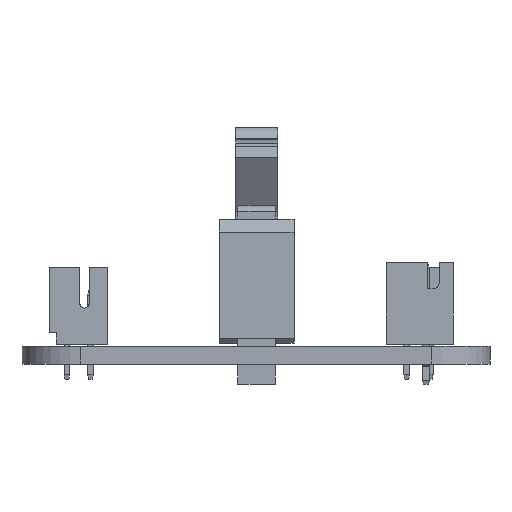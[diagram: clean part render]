
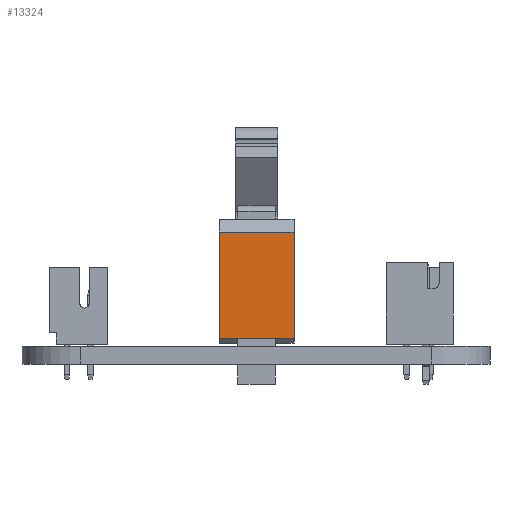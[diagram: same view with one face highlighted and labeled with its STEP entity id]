
A CAD part, front view. The second image highlights one B-rep face of the part: STEP entity #13324.
In plain terms, the highlighted planar face has unit normal (0, -1, 0) as drawn and (1, 0, 0) by its records, which use the part's own axes.
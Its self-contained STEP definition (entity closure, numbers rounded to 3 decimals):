
#13298 = VERTEX_POINT('',#13299);
#13299 = CARTESIAN_POINT('',(9.9,9.5,3.2));
#13305 = EDGE_CURVE('',#13306,#13298,#13308,.T.);
#13306 = VERTEX_POINT('',#13307);
#13307 = CARTESIAN_POINT('',(9.9,9.5,-3.2));
#13308 = LINE('',#13309,#13310);
#13309 = CARTESIAN_POINT('',(9.9,9.5,-3.2));
#13310 = VECTOR('',#13311,1.);
#13311 = DIRECTION('',(0.,0.,1.));
#13324 = ADVANCED_FACE('',(#13325),#13350,.T.);
#13325 = FACE_BOUND('',#13326,.T.);
#13326 = EDGE_LOOP('',(#13327,#13335,#13343,#13349));
#13327 = ORIENTED_EDGE('',*,*,#13328,.T.);
#13328 = EDGE_CURVE('',#13298,#13329,#13331,.T.);
#13329 = VERTEX_POINT('',#13330);
#13330 = CARTESIAN_POINT('',(9.9,0.4,3.2));
#13331 = LINE('',#13332,#13333);
#13332 = CARTESIAN_POINT('',(9.9,0.4,3.2));
#13333 = VECTOR('',#13334,1.);
#13334 = DIRECTION('',(-0.,-1.,-0.));
#13335 = ORIENTED_EDGE('',*,*,#13336,.F.);
#13336 = EDGE_CURVE('',#13337,#13329,#13339,.T.);
#13337 = VERTEX_POINT('',#13338);
#13338 = CARTESIAN_POINT('',(9.9,0.4,-3.2));
#13339 = LINE('',#13340,#13341);
#13340 = CARTESIAN_POINT('',(9.9,0.4,-3.2));
#13341 = VECTOR('',#13342,1.);
#13342 = DIRECTION('',(0.,0.,1.));
#13343 = ORIENTED_EDGE('',*,*,#13344,.T.);
#13344 = EDGE_CURVE('',#13337,#13306,#13345,.T.);
#13345 = LINE('',#13346,#13347);
#13346 = CARTESIAN_POINT('',(9.9,0.4,-3.2));
#13347 = VECTOR('',#13348,1.);
#13348 = DIRECTION('',(0.,1.,0.));
#13349 = ORIENTED_EDGE('',*,*,#13305,.T.);
#13350 = PLANE('',#13351);
#13351 = AXIS2_PLACEMENT_3D('',#13352,#13353,#13354);
#13352 = CARTESIAN_POINT('',(9.9,4.95,-3.2));
#13353 = DIRECTION('',(1.,0.,0.));
#13354 = DIRECTION('',(-0.,1.,0.));
